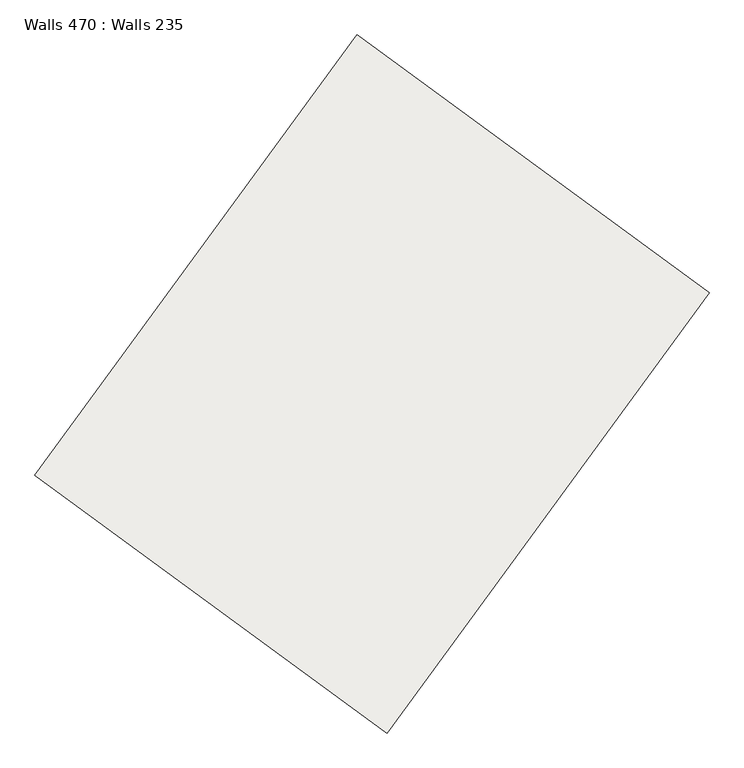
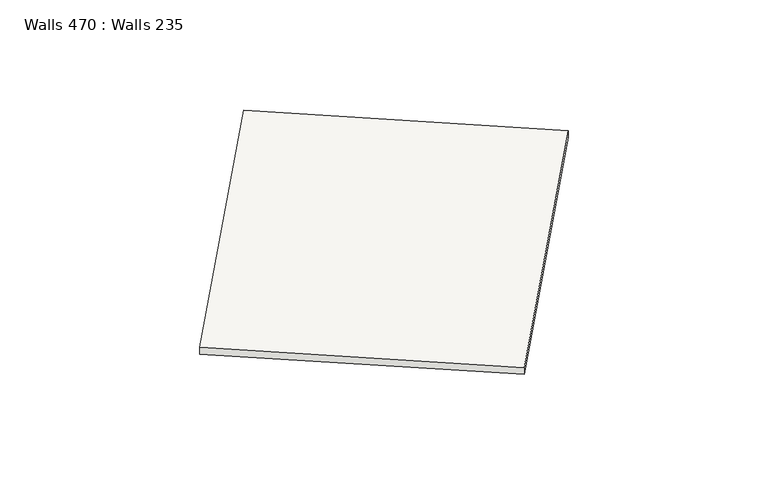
"""IFC4 building model written with IfcOpenShell, lengths in millimetres: slab geometry, Walls 470 : Walls 235."""

import ifcopenshell
import ifcopenshell.guid

model = None  # the IFC model being written
_history = None  # IfcOwnerHistory: only IFC2X3 demands one
_inside = {}  # id of a spatial element -> (the spatial element, [elements in it])
_under = {}  # id of a project, library or spatial element -> (it, [spatial elements below it])
_declared = {}  # id of a project -> (the project, [libraries it declares])
_typed = {}  # id of a type object -> (the type object, [elements of that type])
_made_of = {}  # id of a material, layer set ... -> (it, [elements and type objects made of it])


def new_model(schema):
    """Start an empty IFC model of exactly this schema.

    Asked for "IFC4X3", IfcOpenShell would pick the latest addendum, in which some entities
    have other attributes; the version numbers below select the first issue.
    IFC2X3 requires an IfcOwnerHistory on every rooted entity: one is made here for all.
    """
    global model, _history
    if schema == "IFC4X3":
        model = ifcopenshell.file(schema_version=(4, 3, 0, 0))
    else:
        model = ifcopenshell.file(schema=schema)
    _inside.clear()
    _under.clear()
    _declared.clear()
    _typed.clear()
    _made_of.clear()
    _history = None
    if model.schema == "IFC2X3":
        org = make("IfcOrganization", Name="unknown")
        user = make(
            "IfcPersonAndOrganization",
            ThePerson=make("IfcPerson", FamilyName="unknown"),
            TheOrganization=org,
        )
        app = make(
            "IfcApplication",
            ApplicationDeveloper=org,
            Version="unknown",
            ApplicationFullName="unknown",
            ApplicationIdentifier="unknown",
        )
        _history = make(
            "IfcOwnerHistory",
            OwningUser=user,
            OwningApplication=app,
            ChangeAction="ADDED",
            CreationDate=0,
        )
    return model


def make(cls, **values):
    """One entity of the class cls with the attributes given. An attribute that is None is left unset."""
    return model.create_entity(
        cls, **{name: value for name, value in values.items() if value is not None}
    )


def rooted(cls, **values):
    """An entity with a GlobalId (a new one), such as an element, a storey or a relation."""
    return make(cls, GlobalId=ifcopenshell.guid.new(), OwnerHistory=_history, **values)


def si_unit(unit_type, name, prefix=None):
    """IfcSIUnit, for example si_unit("LENGTHUNIT", "METRE", prefix="MILLI")."""
    return make("IfcSIUnit", UnitType=unit_type, Prefix=prefix, Name=name)


def assignment(units):
    """IfcUnitAssignment: the units of a project."""
    return None if units is None else make("IfcUnitAssignment", Units=units)


def point(xyz):
    """IfcCartesianPoint."""
    return None if xyz is None else make("IfcCartesianPoint", Coordinates=xyz)


def direction(xyz):
    """IfcDirection."""
    return None if xyz is None else make("IfcDirection", DirectionRatios=xyz)


def frame(location, z_axis=None, x_axis=None):
    """IfcAxis2Placement3D, a coordinate frame: its origin and axes. An axis left out is left unset."""
    return make(
        "IfcAxis2Placement3D",
        Location=point(location),
        Axis=direction(z_axis),
        RefDirection=direction(x_axis),
    )


def origin():
    """The frame at (0, 0, 0) with its axes left unset."""
    return frame((0.0, 0.0, 0.0))


def place(relative_to, where):
    """IfcLocalPlacement: puts the frame where relative to a parent placement (None: the world)."""
    return make(
        "IfcLocalPlacement", PlacementRelTo=relative_to, RelativePlacement=where
    )


def context(
    kind, dimensions, precision=None, world=None, true_north=None, identifier=None
):
    """IfcGeometricRepresentationContext, for example the 3D "Model" context."""
    return make(
        "IfcGeometricRepresentationContext",
        ContextIdentifier=identifier,
        ContextType=kind,
        CoordinateSpaceDimension=dimensions,
        Precision=precision,
        WorldCoordinateSystem=world,
        TrueNorth=true_north,
    )


def project(units=None, contexts=None):
    """IfcProject with its units and contexts."""
    return rooted(
        "IfcProject",
        Name="project",
        RepresentationContexts=contexts,
        UnitsInContext=assignment(units),
    )


def spatial(cls, under=None, at=None, **own):
    """A site, building, storey or space (cls), placed at a placement, below another one or the project."""
    s = rooted(cls, ObjectPlacement=at, **own)
    if under is not None:
        _under.setdefault(under.id(), (under, []))[1].append(s)
    return s


def polyline(points):
    """IfcPolyline through the points."""
    return make("IfcPolyline", Points=[point(p) for p in points])


def outline(outer, holes=None, kind="AREA"):
    """IfcArbitraryClosedProfileDef: a profile drawn as a closed curve; with holes, ...WithVoids."""
    if holes is None:
        return make("IfcArbitraryClosedProfileDef", ProfileType=kind, OuterCurve=outer)
    return make(
        "IfcArbitraryProfileDefWithVoids",
        ProfileType=kind,
        OuterCurve=outer,
        InnerCurves=holes,
    )


def extrude(swept, where, along, depth):
    """IfcExtrudedAreaSolid: the profile swept, set in the frame where, extruded along a direction by depth."""
    return make(
        "IfcExtrudedAreaSolid",
        SweptArea=swept,
        Position=where,
        ExtrudedDirection=direction(along),
        Depth=depth,
    )


def shape(context_of_items, identifier, shape_type, items):
    """IfcShapeRepresentation: the items that make up one representation, for example the "Body"."""
    return make(
        "IfcShapeRepresentation",
        ContextOfItems=context_of_items,
        RepresentationIdentifier=identifier,
        RepresentationType=shape_type,
        Items=items,
    )


def source(mapping_origin, context_of_items, identifier, shape_type, items):
    """IfcRepresentationMap: a shape defined once, which mapped items show again and again."""
    return make(
        "IfcRepresentationMap",
        MappingOrigin=mapping_origin,
        MappedRepresentation=shape(context_of_items, identifier, shape_type, items),
    )


def transform(
    local_origin,
    x_axis=None,
    y_axis=None,
    z_axis=None,
    scale=None,
    scale2=None,
    scale3=None,
    uniform=True,
):
    """IfcCartesianTransformationOperator3D, or its non-uniform kind. x_axis, y_axis, z_axis: its Axis1, 2, 3."""
    if uniform:
        return make(
            "IfcCartesianTransformationOperator3D",
            Axis1=direction(x_axis),
            Axis2=direction(y_axis),
            LocalOrigin=point(local_origin),
            Scale=scale,
            Axis3=direction(z_axis),
        )
    return make(
        "IfcCartesianTransformationOperator3DnonUniform",
        Axis1=direction(x_axis),
        Axis2=direction(y_axis),
        LocalOrigin=point(local_origin),
        Scale=scale,
        Axis3=direction(z_axis),
        Scale2=scale2,
        Scale3=scale3,
    )


def mapped(mapping_source, mapping_target):
    """IfcMappedItem: shows the shape of a source again, moved by a transform."""
    return make(
        "IfcMappedItem", MappingSource=mapping_source, MappingTarget=mapping_target
    )


def made_of(thing, what):
    """Note that an element or type object is made of a material, layer set ...; save() writes the relation."""
    if what is not None:
        _made_of.setdefault(what.id(), (what, []))[1].append(thing)
    return thing


def element(
    cls,
    number,
    at=None,
    inside=None,
    cuts=None,
    type_object=None,
    material=None,
    context=None,
    identifier="Body",
    shape_type=None,
    held_by="IfcProductDefinitionShape",
    body=None,
    shapes=None,
    **own,
):
    """One element of the class cls, such as IfcWall. Its Tag is "e" and its number.

    at: its placement. inside: the storey or other place that contains it. cuts: it is an
    opening in that element (IfcRelVoidsElement). A single representation is given by context,
    identifier, shape_type and body (its items); several are given by shapes. held_by: the class
    of the entity that holds the representations. save() writes the other relations.
    """
    e = rooted(cls, Tag="e%d" % number, ObjectPlacement=at, **own)
    if body is not None:
        shapes = [shape(context, identifier, shape_type, body)]
    if shapes is not None:
        e.Representation = make(held_by, Representations=shapes)
    if inside is not None:
        _inside.setdefault(inside.id(), (inside, []))[1].append(e)
    if cuts is not None:
        rooted(
            "IfcRelVoidsElement", RelatingBuildingElement=cuts, RelatedOpeningElement=e
        )
    if type_object is not None:
        _typed.setdefault(type_object.id(), (type_object, []))[1].append(e)
    return made_of(e, material)


def aggregate(whole, parts):
    """IfcRelAggregates: a whole, such as a stair, and the parts it consists of."""
    return rooted("IfcRelAggregates", RelatingObject=whole, RelatedObjects=parts)


def save(model, path):
    """Write the relations noted so far, then the file.

    IfcRelAggregates (storeys below a building ...), IfcRelContainedInSpatialStructure (elements
    in a storey), IfcRelDefinesByType, IfcRelAssociatesMaterial and IfcRelDeclares: one each for
    every whole, place, type object, material and project.
    """
    for whole, parts in _under.values():
        aggregate(whole, parts)
    for where, things in _inside.values():
        rooted(
            "IfcRelContainedInSpatialStructure",
            RelatedElements=things,
            RelatingStructure=where,
        )
    for kind, things in _typed.values():
        rooted("IfcRelDefinesByType", RelatedObjects=things, RelatingType=kind)
    for what, things in _made_of.values():
        rooted("IfcRelAssociatesMaterial", RelatedObjects=things, RelatingMaterial=what)
    for by, libraries in _declared.values():
        rooted("IfcRelDeclares", RelatingContext=by, RelatedDefinitions=libraries)
    model.write(path)


def walls_470_walls_235_78f228b5(model_context):
    return source(origin(), model_context, "Body", "SweptSolid", [
        extrude(outline(polyline([(-50.0, 0.0), (50.0, 0.0), (-12.8, -4999.9823358), (-112.8, -4999.9823358), (-50.0, 0.0)])), frame((458136.9896681, 343460.0232015, 646160.8), z_axis=(-0.8067016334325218, 0.5909589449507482, 0.0), x_axis=(0.0, 0.0, 1.0)), (0.0, 0.0, 1.0), 4000.0),
    ])


if __name__ == "__main__":
    model = new_model("IFC4")
    model_context = context("Model", 3, world=origin())
    ifc_project = project(units=[si_unit("LENGTHUNIT", "METRE", prefix="MILLI")], contexts=[model_context])
    site = spatial("IfcSite", under=ifc_project)
    building = spatial("IfcBuilding", under=site)
    placement = place(None, origin())
    walls_470_walls_235_shape = walls_470_walls_235_78f228b5(model_context)
    element("IfcSlab", 1, ObjectType="Walls 470 : Walls 235", at=placement, inside=building, context=model_context, shape_type="MappedRepresentation", body=[
        mapped(walls_470_walls_235_shape, transform((0.0, 0.0, 0.0), x_axis=(1.0, 0.0, 0.0), y_axis=(0.0, 1.0, 0.0), z_axis=(0.0, 0.0, 1.0))),
    ])
    save(model, "model.ifc")
